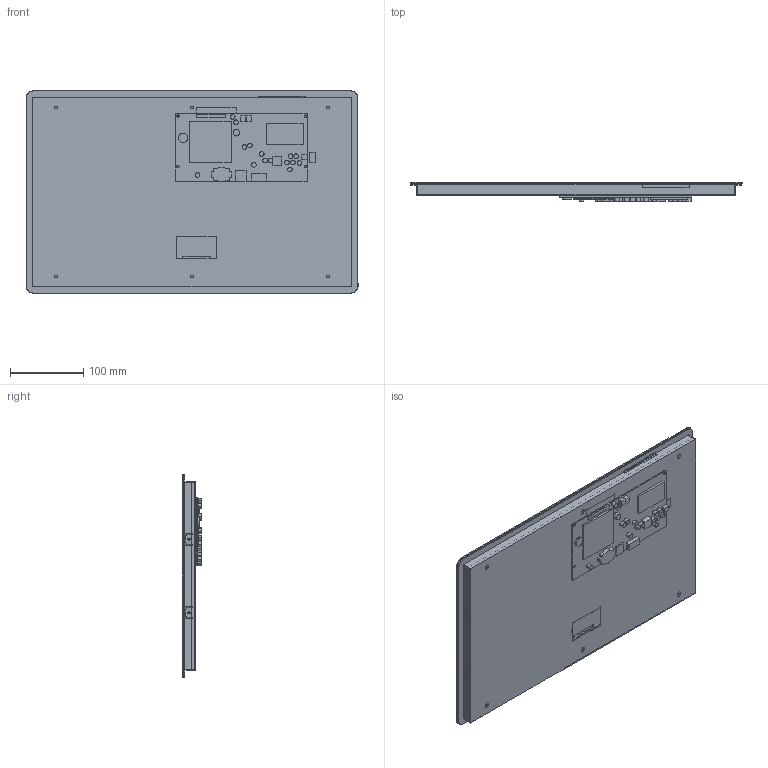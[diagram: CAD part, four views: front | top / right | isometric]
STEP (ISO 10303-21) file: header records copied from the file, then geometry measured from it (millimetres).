
FILE_DESCRIPTION((''),'2;1');
FILE_NAME('ASM0001_ASM','2022-05-25T',('Administrator'),(''),'PRO/ENGINEER BY PARAMETRIC TECHNOLOGY CORPORATION, 2014320','PRO/ENGINEER BY PARAMETRIC TECHNOLOGY CORPORATION, 2014320','');
FILE_SCHEMA(('CONFIG_CONTROL_DESIGN','SHAPE_APPEARANCE_LAYERS_GROUPS'));
Length unit declared in the file: millimetre
Products named in the file (5): TK; CTP; 185LCD; PCB220525; ASM0001_ASM
Assembly tree (4 placements, depth 2):
  ASM0001_ASM
    TK
    CTP
    185LCD
    PCB220525
Bounding box: 451.77 x 26.7 x 276 mm (x, y, z)
Volume: 1457384.5 mm3; surface area: 821038.4 mm2
Topology: 4 solids, 4 shells, 501 faces, 1309 edges, 870 vertices
Faces by surface type: plane 369, cylinder 132
Entity records: 17074 total; most frequent: CARTESIAN_POINT 2689, ORIENTED_EDGE 2618, DIRECTION 2593, EDGE_CURVE 1309, VECTOR 1045, LINE 1045, VERTEX_POINT 870, AXIS2_PLACEMENT_3D 774
